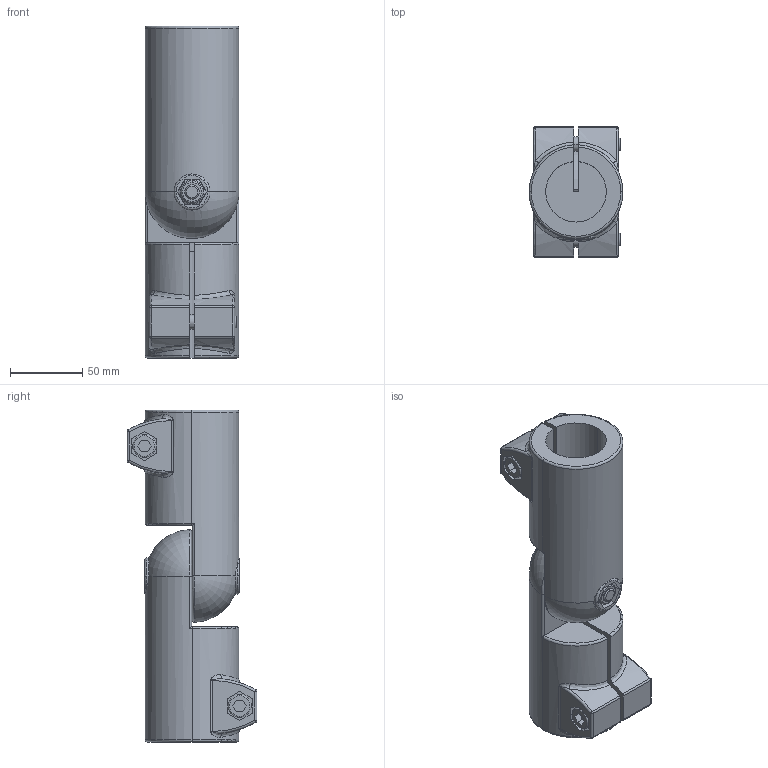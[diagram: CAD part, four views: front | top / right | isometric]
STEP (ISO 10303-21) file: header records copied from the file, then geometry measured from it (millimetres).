
FILE_DESCRIPTION (( 'STEP AP214' ), '1' );
FILE_NAME ('286-B42-B48-T-2-SW.step', '2021-12-02T12:14:46', ( '' ), ( '' ), 'SwSTEP 2.0', 'SolidWorks 2019', '' );
FILE_SCHEMA (( 'AUTOMOTIVE_DESIGN' ));
Length unit declared in the file: millimetre
Products named in the file (3): WB276^WB286_B42-IV-2-SW; 286-B42-B48-T-2-SW; WB276_1^WB286_B48-AV-2-SW
Assembly tree (2 placements, depth 2):
  286-B42-B48-T-2-SW
    WB276^WB286_B42-IV-2-SW
    WB276_1^WB286_B48-AV-2-SW
Bounding box: 65 x 90 x 230 mm (x, y, z)
Volume: 522916.6 mm3; surface area: 110664.3 mm2
Topology: 2 solids, 2 shells, 496 faces, 1256 edges, 782 vertices
Faces by surface type: plane 290, cylinder 108, torus 46, cone 24, bspline 20, sphere 8
Entity records: 19024 total; most frequent: CARTESIAN_POINT 6337, ORIENTED_EDGE 2496, DIRECTION 2358, EDGE_CURVE 1248, AXIS2_PLACEMENT_3D 929, VERTEX_POINT 782, EDGE_LOOP 528, LINE 500
